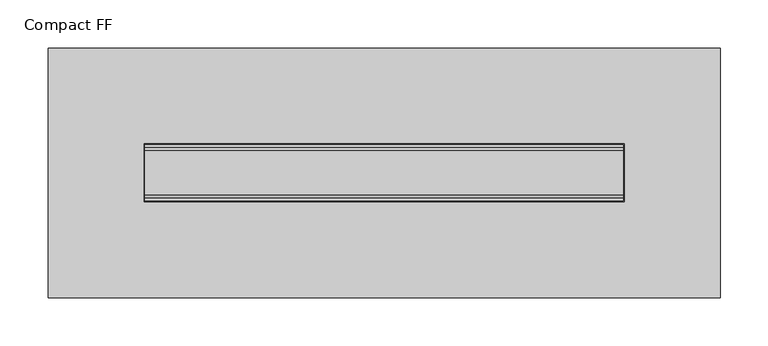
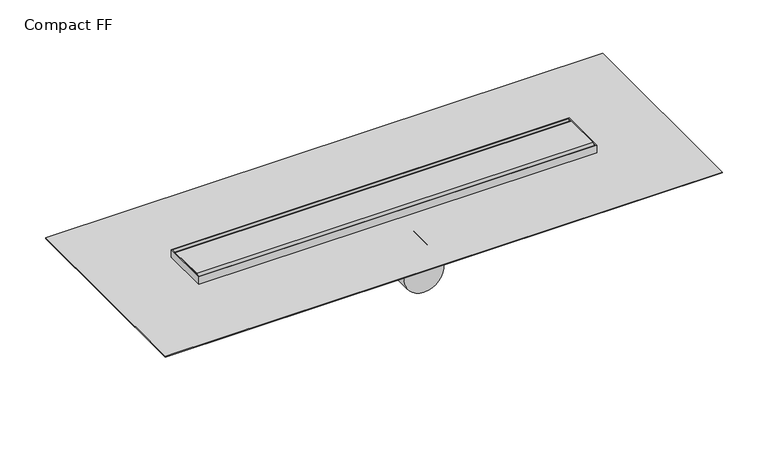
"""IFC4 building model written with IfcOpenShell, lengths in millimetres: sanitary terminal geometry, NLRS_PF_52_UN_Compact_Easydrain : Compact FF."""

from ifc_helpers import new_model, si_unit, point, frame, frame_2d, origin, place, context, project, spatial, polyline, circle_curve, trimmed, segment, composite_curve, outline, extrude, source, transform, mapped, element, save
from ifc_brep_helpers import plane_surface, cylinder_surface, advanced_brep


def compact_ff_ca326670(model_context):
    return source(origin(), model_context, "Body", "SolidModel", [
        extrude(outline(composite_curve([segment(polyline([(-23.0, 0.0), (23.0, 0.0)]), True, "CONTINUOUS"), segment(trimmed(circle_curve(frame_2d((23.0, -3.0)), 3.0), [point((23.0, 0.0))], [point((26.0, -3.0))], False, "CARTESIAN"), True, "CONTINUOUS"), segment(polyline([(26.0, -3.0), (26.0, -12.0), (-26.0, -12.0), (-26.0, -3.0)]), True, "CONTINUOUS"), segment(trimmed(circle_curve(frame_2d((-23.0, -3.0)), 3.0), [point((-26.0, -3.0))], [point((-23.0, 0.0))], False, "CARTESIAN"), True, "CONTINUOUS")], self_intersect=False)), frame((-249.0, 0.0, 0.0), z_axis=(1.0, 0.0, 0.0), x_axis=(0.0, 1.0, 0.0)), (0.0, 0.0, 1.0), 498.0),
        extrude(outline(composite_curve([segment(trimmed(circle_curve(frame_2d((190.0, 0.0)), 20.0), [point((210.0, 0.0))], [point((170.0, 0.0))], False, "CARTESIAN"), True, "CONTINUOUS"), segment(trimmed(circle_curve(frame_2d((190.0, 0.0)), 20.0), [point((170.0, 0.0))], [point((210.0, 0.0))], False, "CARTESIAN"), True, "CONTINUOUS")], self_intersect=False)), frame((0.0, 0.0, -81.0), z_axis=(0.0, 0.0, 1.0), x_axis=(1.0, 0.0, 0.0)), (0.0, 0.0, 1.0), 63.0),
        extrude(outline(composite_curve([segment(trimmed(circle_curve(frame_2d((-190.0, 0.0)), 20.0), [point((-210.0, 0.0))], [point((-170.0, 0.0))], False, "CARTESIAN"), True, "CONTINUOUS"), segment(trimmed(circle_curve(frame_2d((-190.0, 0.0)), 20.0), [point((-170.0, 0.0))], [point((-210.0, 0.0))], False, "CARTESIAN"), True, "CONTINUOUS")], self_intersect=False)), frame((0.0, 0.0, -81.0), z_axis=(0.0, 0.0, 1.0), x_axis=(1.0, 0.0, 0.0)), (0.0, 0.0, 1.0), 63.0),
        extrude(outline(polyline([(350.0, 130.0), (350.0, -130.0), (-350.0, -130.0), (-350.0, 130.0), (350.0, 130.0)]), holes=[polyline([(250.0, 30.0), (-250.0, 30.0), (-250.0, -30.0), (250.0, -30.0), (250.0, 30.0)])]), frame((0.0, 0.0, -11.0), z_axis=(0.0, 0.0, 1.0), x_axis=(1.0, 0.0, 0.0)), (0.0, 0.0, 1.0), 1.0),
        advanced_brep(
        [(-250.0, -30.0, -18.0), (-110.0, -30.0, -20.0), (-110.0, -30.0, -81.0), (110.0, -30.0, -81.0), (110.0, -30.0, -20.0), (250.0, -30.0, -18.0), (250.0, -30.0, 0.0), (-250.0, -30.0, 0.0), (0.0, -30.0, -23.0), (0.0, -30.0, -73.0), (-250.0, 30.0, -18.0), (-250.0, 30.0, 0.0), (250.0, 30.0, 0.0), (250.0, 30.0, -18.0), (110.0, 30.0, -20.0), (110.0, 30.0, -81.0), (-110.0, 30.0, -81.0), (-110.0, 30.0, -20.0), (-249.0, 29.0, 0.0), (249.0, 29.0, 0.0), (249.0, -29.0, 0.0), (-249.0, -29.0, 0.0), (0.0, -87.0466767, -23.0), (0.0, -87.0466767, -73.0), (249.0, 29.0, -12.0), (-249.0, 29.0, -12.0), (-249.0, -29.0, -12.0), (249.0, -29.0, -12.0)],
        [
            (0, 1),
            (1, 2),
            (2, 3),
            (3, 4),
            (4, 5),
            (5, 6),
            (6, 7),
            (7, 0),
            (8, 9, circle_curve(frame((0.0, -30.0, -48.0), z_axis=(0.0, 1.0, 0.0), x_axis=(0.0, 0.0, -1.0)), 25.0)),
            (9, 8, circle_curve(frame((0.0, -30.0, -48.0), z_axis=(0.0, 1.0, 0.0), x_axis=(0.0, 0.0, -1.0)), 25.0)),
            (10, 11),
            (11, 12),
            (12, 13),
            (13, 14),
            (14, 15),
            (15, 16),
            (16, 17),
            (17, 10),
            (0, 10),
            (17, 1),
            (5, 13),
            (12, 6),
            (11, 7),
            (18, 19),
            (19, 20),
            (20, 21),
            (21, 18),
            (16, 2),
            (15, 3),
            (14, 4),
            (22, 23, circle_curve(frame((0.0, -87.0466767, -48.0), z_axis=(0.0, -1.0, 0.0), x_axis=(0.0, 0.0, -1.0)), 25.0)),
            (23, 22, circle_curve(frame((0.0, -87.0466767, -48.0), z_axis=(0.0, -1.0, 0.0), x_axis=(0.0, 0.0, -1.0)), 25.0)),
            (23, 9),
            (8, 22),
            (24, 25),
            (25, 26),
            (26, 27),
            (27, 24),
            (24, 19),
            (18, 25),
            (21, 26),
            (20, 27),
        ],
        [
            plane_surface(frame((-250.0, -30.0, -18.0), z_axis=(0.0, -1.0, 0.0), x_axis=(0.99989797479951, 0.0, -0.014284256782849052))),
            plane_surface(frame((-250.0, 30.0, -18.0), z_axis=(0.0, 1.0, 0.0), x_axis=(-0.99989797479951, 0.0, 0.014284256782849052))),
            plane_surface(frame((-250.0, -30.0, -18.0), z_axis=(-0.014284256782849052, 0.0, -0.99989797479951), x_axis=(0.0, 1.0, 0.0))),
            plane_surface(frame((250.0, -30.0, -18.0), z_axis=(1.0, 0.0, 0.0), x_axis=(0.0, 1.0, 0.0))),
            plane_surface(frame((250.0, -30.0, 0.0), z_axis=(0.0, 0.0, 1.0), x_axis=(0.0, 1.0, 0.0))),
            plane_surface(frame((-250.0, -30.0, 0.0), z_axis=(-1.0, 0.0, 0.0), x_axis=(0.0, 1.0, 0.0))),
            plane_surface(frame((-110.0, -30.0, -20.0), z_axis=(-1.0, 0.0, 0.0), x_axis=(0.0, 1.0, 0.0))),
            plane_surface(frame((-110.0, -30.0, -81.0), z_axis=(0.0, 0.0, -1.0), x_axis=(0.0, 1.0, 0.0))),
            plane_surface(frame((110.0, -30.0, -81.0), z_axis=(1.0, 0.0, 0.0), x_axis=(0.0, 1.0, 0.0))),
            plane_surface(frame((110.0, -30.0, -20.0), z_axis=(0.01428425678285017, 0.0, -0.99989797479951), x_axis=(0.0, 1.0, 0.0))),
            plane_surface(frame((0.0, -87.0466767, -48.0), z_axis=(0.0, -1.0, 0.0), x_axis=(1.0, 0.0, 0.0))),
            cylinder_surface(frame((0.0, 0.0, -48.0), z_axis=(0.0, 1.0, 0.0), x_axis=(0.0, 0.0, -1.0)), 25.0),
            plane_surface(frame((-249.0, 29.0, -12.0), z_axis=(0.0, 0.0, 1.0), x_axis=(1.0, 0.0, 0.0))),
            plane_surface(frame((249.0, 29.0, 0.0), z_axis=(0.0, -1.0, 0.0), x_axis=(0.0, 0.0, -1.0))),
            plane_surface(frame((-249.0, 29.0, 0.0), z_axis=(1.0, 0.0, 0.0), x_axis=(0.0, 0.0, -1.0))),
            plane_surface(frame((-249.0, -29.0, 0.0), z_axis=(0.0, 1.0, 0.0), x_axis=(0.0, 0.0, -1.0))),
            plane_surface(frame((249.0, -29.0, 0.0), z_axis=(-1.0, 0.0, 0.0), x_axis=(0.0, 0.0, -1.0))),
        ],
        [
            (0, [[1, 2, 3, 4, 5, 6, 7, 8], [9, 10]]),
            (1, [[11, 12, 13, 14, 15, 16, 17, 18]]),
            (2, [[-1, 19, -18, 20]]),
            (3, [[-6, 21, -13, 22]]),
            (4, [[-7, -22, -12, 23], [24, 25, 26, 27]]),
            (5, [[-8, -23, -11, -19]]),
            (6, [[-2, -20, -17, 28]]),
            (7, [[-3, -28, -16, 29]]),
            (8, [[-4, -29, -15, 30]]),
            (9, [[-5, -30, -14, -21]]),
            (10, [[31, 32]]),
            (11, [[-32, 33, -9, 34]]),
            (11, [[-31, -34, -10, -33]]),
            (12, [[35, 36, 37, 38]]),
            (13, [[-35, 39, -24, 40]]),
            (14, [[-36, -40, -27, 41]]),
            (15, [[-37, -41, -26, 42]]),
            (16, [[-38, -42, -25, -39]]),
        ],
    ),
    ])


if __name__ == "__main__":
    model = new_model("IFC4")
    model_context = context("Model", 3, world=origin())
    ifc_project = project(units=[si_unit("LENGTHUNIT", "METRE", prefix="MILLI")], contexts=[model_context])
    site = spatial("IfcSite", under=ifc_project)
    building = spatial("IfcBuilding", under=site)
    placement = place(None, origin())
    compact_ff_shape = compact_ff_ca326670(model_context)
    element("IfcSanitaryTerminal", 1, ObjectType="NLRS_PF_52_UN_Compact_Easydrain : Compact FF", at=placement, inside=building, context=model_context, shape_type="MappedRepresentation", body=[
        mapped(compact_ff_shape, transform((0.0, 0.0, 0.0), x_axis=(1.0, 0.0, 0.0), y_axis=(0.0, 1.0, 0.0), z_axis=(0.0, 0.0, 1.0))),
    ])
    save(model, "model.ifc")
